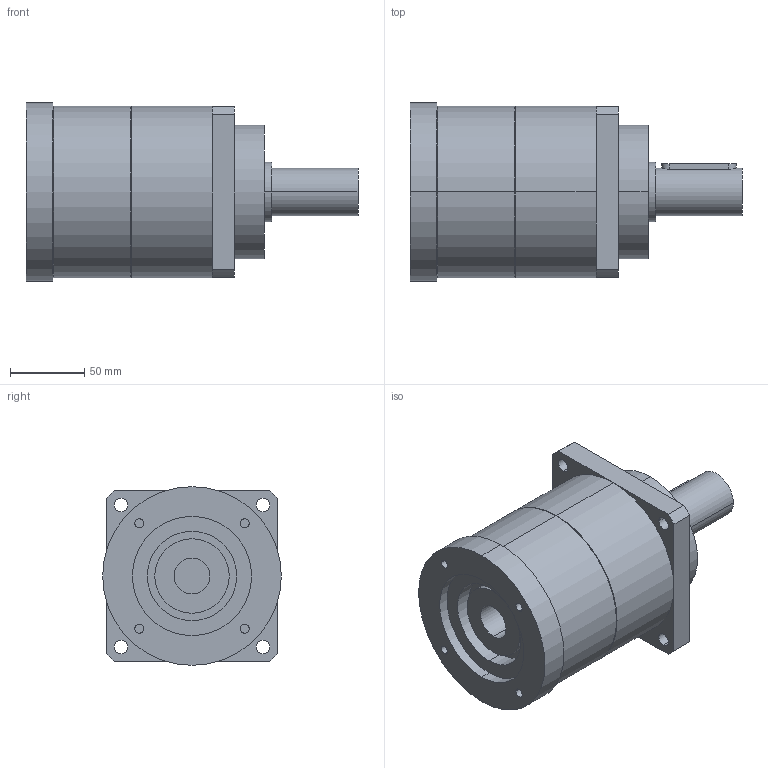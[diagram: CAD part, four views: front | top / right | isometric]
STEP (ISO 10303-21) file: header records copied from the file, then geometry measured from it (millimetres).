
FILE_DESCRIPTION(('CoCreate Modeling STEP Export'),'2;1');
FILE_NAME('GPT120_ig-3-4-5-7-10_32_B5A_24_P24.stp','2015-02-04T17:00:02',(''),(''),'CoCreate Modeling STEP processor for AP214 (Solid Model)','CoCreate Modeling 16.00C 25-Feb-2009 (C) Parametric Technology GmbH','');
FILE_SCHEMA(('AUTOMOTIVE_DESIGN { 1 0 10303 214 1 1 1 1 }'));
Length unit declared in the file: millimetre
Products named in the file (2): GPT120_ig-3-4-5-7-10_32_B5A_24_P24
Assembly tree (1 placements, depth 2):
  GPT120_ig-3-4-5-7-10_32_B5A_24_P24
    GPT120_ig-3-4-5-7-10_32_B5A_24_P24
Bounding box: 223 x 120 x 120 mm (x, y, z)
Volume: 1607645.1 mm3; surface area: 105954 mm2
Topology: 1 solids, 1 shells, 75 faces, 184 edges, 125 vertices
Faces by surface type: cylinder 44, plane 27, cone 4
Entity records: 2345 total; most frequent: CARTESIAN_POINT 718, ORIENTED_EDGE 368, DIRECTION 280, EDGE_CURVE 184, VERTEX_POINT 125, AXIS2_PLACEMENT_3D 105, EDGE_LOOP 97, FACE_OUTER_BOUND 75
